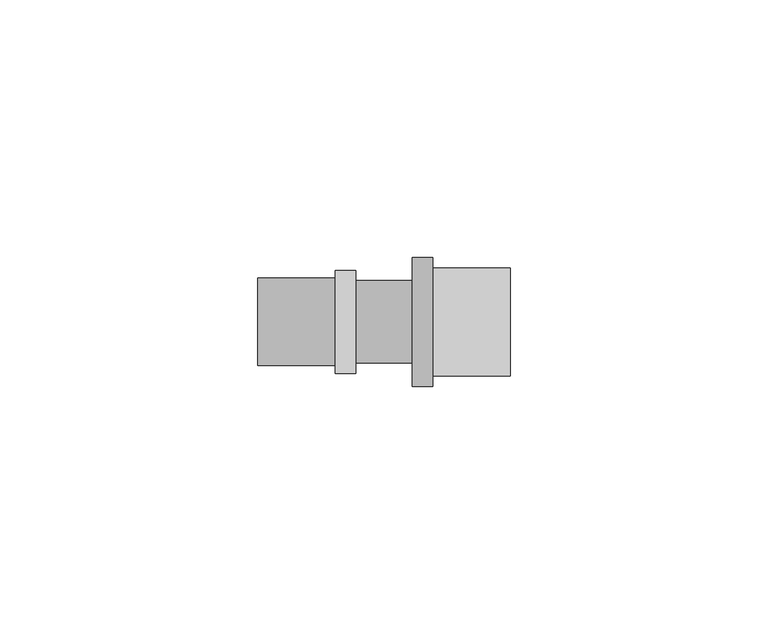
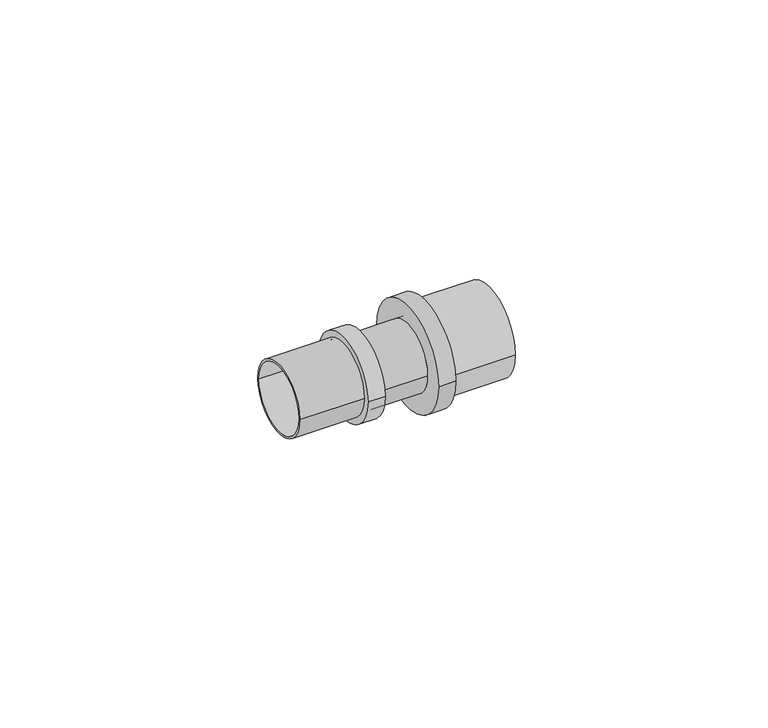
"""IFC4 building model written with IfcOpenShell, lengths in millimetres: pipe fitting geometry, БИР ПЕКС_НПР_Соединитель_Резьба_Наружная : Соединитель прямой с наружной резьбой."""

from ifc_helpers import new_model, si_unit, point, frame, origin, origin_2d, place, context, project, spatial, circle_curve, trimmed, segment, composite_curve, outline, extrude, source, transform, mapped, element, save


def pipe_fitting_0f1fe841(model_context):
    return source(origin(), model_context, "Body", "SweptSolid", [
        extrude(outline(composite_curve([segment(trimmed(circle_curve(origin_2d(), 8.5), [point((-8.5, 0.0))], [point((8.5, 0.0))], False, "CARTESIAN"), True, "CONTINUOUS"), segment(trimmed(circle_curve(origin_2d(), 8.5), [point((8.5, 0.0))], [point((-8.5, 0.0))], False, "CARTESIAN"), True, "CONTINUOUS")], self_intersect=False), holes=[composite_curve([segment(trimmed(circle_curve(origin_2d(), 8.0), [point((-8.0, 0.0))], [point((8.0, 0.0))], True, "CARTESIAN"), True, "CONTINUOUS"), segment(trimmed(circle_curve(origin_2d(), 8.0), [point((8.0, 0.0))], [point((-8.0, 0.0))], True, "CARTESIAN"), True, "CONTINUOUS")], self_intersect=False)]), frame((-21.375, 0.0, 0.0), z_axis=(1.0, 0.0, 0.0), x_axis=(0.0, 1.0, 0.0)), (0.0, 0.0, 1.0), 15.0),
        extrude(outline(composite_curve([segment(trimmed(circle_curve(origin_2d(), 10.5), [point((-10.5, 0.0))], [point((10.5, 0.0))], False, "CARTESIAN"), True, "CONTINUOUS"), segment(trimmed(circle_curve(origin_2d(), 10.5), [point((10.5, 0.0))], [point((-10.5, 0.0))], False, "CARTESIAN"), True, "CONTINUOUS")], self_intersect=False), holes=[composite_curve([segment(trimmed(circle_curve(origin_2d(), 10.0), [point((-10.0, 0.0))], [point((10.0, 0.0))], True, "CARTESIAN"), True, "CONTINUOUS"), segment(trimmed(circle_curve(origin_2d(), 10.0), [point((10.0, 0.0))], [point((-10.0, 0.0))], True, "CARTESIAN"), True, "CONTINUOUS")], self_intersect=False)]), frame((12.625, 0.0, 0.0), z_axis=(1.0, 0.0, 0.0), x_axis=(0.0, 1.0, 0.0)), (0.0, 0.0, 1.0), 15.0),
        extrude(outline(composite_curve([segment(trimmed(circle_curve(origin_2d(), 8.0), [point((-8.0, 0.0))], [point((8.0, 0.0))], False, "CARTESIAN"), True, "CONTINUOUS"), segment(trimmed(circle_curve(origin_2d(), 8.0), [point((8.0, 0.0))], [point((-8.0, 0.0))], False, "CARTESIAN"), True, "CONTINUOUS")], self_intersect=False)), frame((-2.375, 0.0, 0.0), z_axis=(1.0, 0.0, 0.0), x_axis=(0.0, 1.0, 0.0)), (0.0, 0.0, 1.0), 11.0),
        extrude(outline(composite_curve([segment(trimmed(circle_curve(origin_2d(), 12.5), [point((-12.5, 0.0))], [point((12.5, 0.0))], False, "CARTESIAN"), True, "CONTINUOUS"), segment(trimmed(circle_curve(origin_2d(), 12.5), [point((12.5, 0.0))], [point((-12.5, 0.0))], False, "CARTESIAN"), True, "CONTINUOUS")], self_intersect=False), holes=[composite_curve([segment(trimmed(circle_curve(origin_2d(), 8.0), [point((-8.0, 0.0))], [point((8.0, 0.0))], True, "CARTESIAN"), True, "CONTINUOUS"), segment(trimmed(circle_curve(origin_2d(), 8.0), [point((8.0, 0.0))], [point((-8.0, 0.0))], True, "CARTESIAN"), True, "CONTINUOUS")], self_intersect=False)]), frame((8.625, 0.0, 0.0), z_axis=(1.0, 0.0, 0.0), x_axis=(0.0, 1.0, 0.0)), (0.0, 0.0, 1.0), 4.0),
        extrude(outline(composite_curve([segment(trimmed(circle_curve(origin_2d(), 10.0), [point((-10.0, 0.0))], [point((10.0, 0.0))], False, "CARTESIAN"), True, "CONTINUOUS"), segment(trimmed(circle_curve(origin_2d(), 10.0), [point((10.0, 0.0))], [point((-10.0, 0.0))], False, "CARTESIAN"), True, "CONTINUOUS")], self_intersect=False), holes=[composite_curve([segment(trimmed(circle_curve(origin_2d(), 8.0), [point((-8.0, 0.0))], [point((8.0, 0.0))], True, "CARTESIAN"), True, "CONTINUOUS"), segment(trimmed(circle_curve(origin_2d(), 8.0), [point((8.0, 0.0))], [point((-8.0, 0.0))], True, "CARTESIAN"), True, "CONTINUOUS")], self_intersect=False)]), frame((-6.375, 0.0, 0.0), z_axis=(1.0, 0.0, 0.0), x_axis=(0.0, 1.0, 0.0)), (0.0, 0.0, 1.0), 4.0),
    ])


if __name__ == "__main__":
    model = new_model("IFC4")
    model_context = context("Model", 3, world=origin())
    ifc_project = project(units=[si_unit("LENGTHUNIT", "METRE", prefix="MILLI")], contexts=[model_context])
    site = spatial("IfcSite", under=ifc_project)
    building = spatial("IfcBuilding", under=site)
    placement = place(None, origin())
    pipe_fitting_shape = pipe_fitting_0f1fe841(model_context)
    element("IfcPipeFitting", 1, ObjectType="БИР ПЕКС_НПР_Соединитель_Резьба_Наружная : Соединитель прямой с наружной резьбой", at=placement, inside=building, context=model_context, shape_type="MappedRepresentation", body=[
        mapped(pipe_fitting_shape, transform((0.0, 0.0, 0.0), x_axis=(1.0, 0.0, 0.0), y_axis=(0.0, 1.0, 0.0), z_axis=(0.0, 0.0, 1.0))),
    ])
    save(model, "model.ifc")
